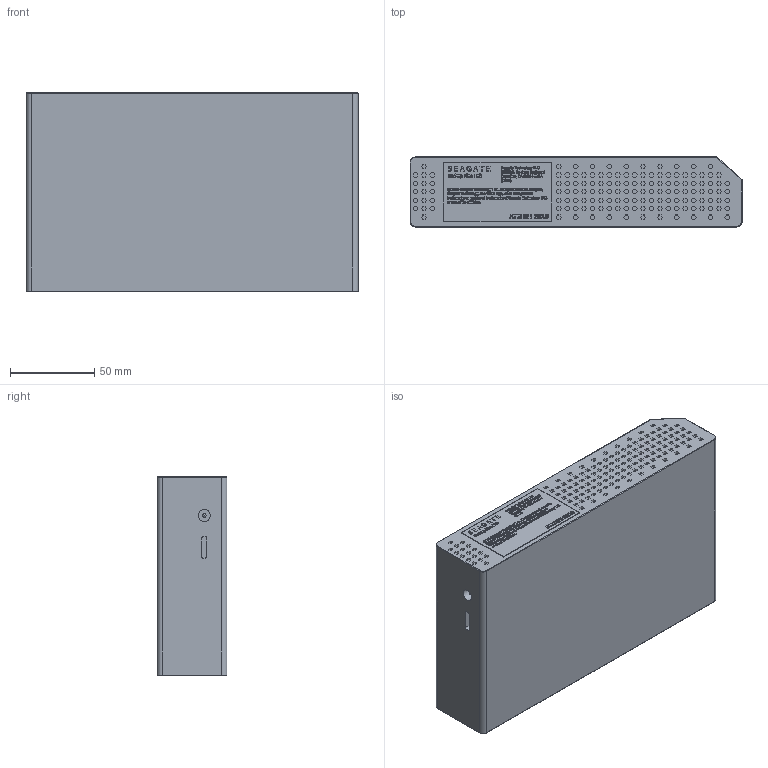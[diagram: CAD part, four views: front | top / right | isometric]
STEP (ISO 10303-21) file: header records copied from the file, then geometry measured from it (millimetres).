
FILE_DESCRIPTION(/* description */ (''),/* implementation_level */ '2;1');
FILE_NAME(/* name */ 'c:\Temp\External - Backup+ Hub.stp',/* time_stamp */ '2019-12-01T06:52:05+03:00',/* author */ ('User'),/* organization */ (''),/* preprocessor_version */ 'ST-DEVELOPER v18',/* originating_system */ 'Autodesk Inventor 2020',/* authorisation */ '');
FILE_SCHEMA (('AUTOMOTIVE_DESIGN { 1 0 10303 214 3 1 1 }'));
Products named in the file (1): External - Backup+ Hub
Bounding box: 197 x 41.4 x 118.21 mm (x, y, z)
Volume: 945271.5 mm3; surface area: 78445.4 mm2
Topology: 6 solids, 6 shells, 5486 faces, 14759 edges, 9833 vertices
Faces by surface type: plane 3225, bspline 2199, cylinder 53, torus 6, sphere 3
Full cylindrical faces by diameter (mm): 2.1 x1, 7 x1
Entity records: 189173 total; most frequent: CARTESIAN_POINT 66030, ORIENTED_EDGE 29516, DIRECTION 17059, EDGE_CURVE 14758, LINE 10245, VECTOR 10245, VERTEX_POINT 9833, EDGE_LOOP 6039
